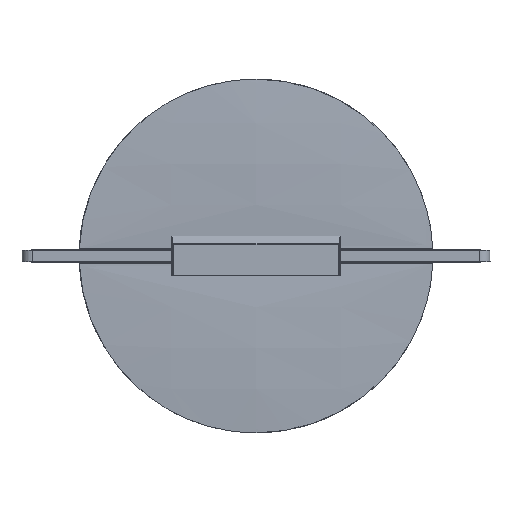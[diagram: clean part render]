
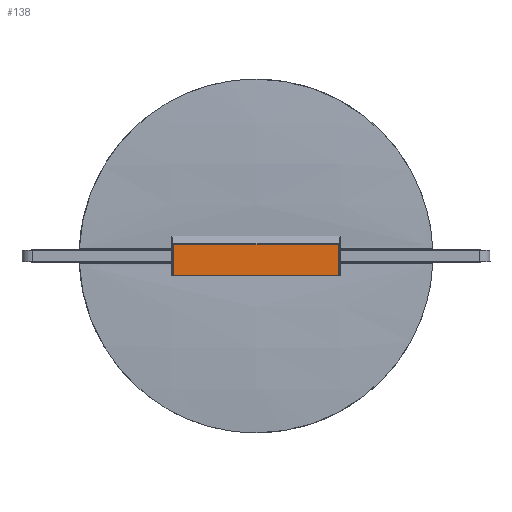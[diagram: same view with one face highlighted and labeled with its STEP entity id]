
A CAD part, front view. The second image highlights one B-rep face of the part: STEP entity #138.
In plain terms, the highlighted planar face has unit normal (0, -1, 0).
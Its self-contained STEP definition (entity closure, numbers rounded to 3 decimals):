
#138=ADVANCED_FACE('',(#618),#8238,.T.);
#618=FACE_OUTER_BOUND('',#1098,.T.);
#1098=EDGE_LOOP('',(#1767,#1768,#1769,#1770,#1771,#1772));
#1767=ORIENTED_EDGE('',*,*,#4356,.T.);
#1768=ORIENTED_EDGE('',*,*,#4365,.T.);
#1769=ORIENTED_EDGE('',*,*,#4416,.F.);
#1770=ORIENTED_EDGE('',*,*,#4374,.T.);
#1771=ORIENTED_EDGE('',*,*,#4418,.T.);
#1772=ORIENTED_EDGE('',*,*,#4336,.T.);
#4336=EDGE_CURVE('',#7072,#7119,#6197,.T.);
#4356=EDGE_CURVE('',#7119,#7101,#6216,.T.);
#4365=EDGE_CURVE('',#7101,#7132,#6225,.T.);
#4374=EDGE_CURVE('',#7134,#7136,#6233,.T.);
#4416=EDGE_CURVE('',#7134,#7132,#6271,.T.);
#4418=EDGE_CURVE('',#7136,#7072,#6273,.T.);
#6197=B_SPLINE_CURVE_WITH_KNOTS('',1,(#10202,#10203),.UNSPECIFIED.,.F.,
 .F.,(2,2),(-87.,0.),.UNSPECIFIED.);
#6216=B_SPLINE_CURVE_WITH_KNOTS('',1,(#10259,#10260),.UNSPECIFIED.,.F.,
 .F.,(2,2),(-0.963,0.),.UNSPECIFIED.);
#6225=B_SPLINE_CURVE_WITH_KNOTS('',1,(#10315,#10316),.UNSPECIFIED.,.F.,
 .F.,(2,2),(-372.074,0.),.UNSPECIFIED.);
#6233=B_SPLINE_CURVE_WITH_KNOTS('',1,(#10338,#10339),.UNSPECIFIED.,.F.,
 .F.,(2,2),(-87.,0.),.UNSPECIFIED.);
#6271=B_SPLINE_CURVE_WITH_KNOTS('',1,(#10477,#10478),.UNSPECIFIED.,.F.,
 .F.,(2,2),(0.,0.963),.UNSPECIFIED.);
#6273=B_SPLINE_CURVE_WITH_KNOTS('',1,(#10481,#10482),.UNSPECIFIED.,.F.,
 .F.,(2,2),(0.,374.),.UNSPECIFIED.);
#7072=VERTEX_POINT('',#9998);
#7101=VERTEX_POINT('',#10027);
#7119=VERTEX_POINT('',#10045);
#7132=VERTEX_POINT('',#10058);
#7134=VERTEX_POINT('',#10060);
#7136=VERTEX_POINT('',#10062);
#8238=PLANE('',#8763);
#8763=AXIS2_PLACEMENT_3D('',#9987,#9222,$);
#9222=DIRECTION('',(0.,-1.,0.));
#9987=CARTESIAN_POINT('',(-224.52,-25.2,-53.82));
#9998=CARTESIAN_POINT('',(187.,-25.2,-45.));
#10027=CARTESIAN_POINT('',(186.037,-25.2,42.));
#10045=CARTESIAN_POINT('',(187.,-25.2,42.));
#10058=CARTESIAN_POINT('',(-186.037,-25.2,42.));
#10060=CARTESIAN_POINT('',(-187.,-25.2,42.));
#10062=CARTESIAN_POINT('',(-187.,-25.2,-45.));
#10202=CARTESIAN_POINT('',(187.,-25.2,-45.));
#10203=CARTESIAN_POINT('',(187.,-25.2,42.));
#10259=CARTESIAN_POINT('',(187.,-25.2,42.));
#10260=CARTESIAN_POINT('',(186.037,-25.2,42.));
#10315=CARTESIAN_POINT('',(186.037,-25.2,42.));
#10316=CARTESIAN_POINT('',(-186.037,-25.2,42.));
#10338=CARTESIAN_POINT('',(-187.,-25.2,42.));
#10339=CARTESIAN_POINT('',(-187.,-25.2,-45.));
#10477=CARTESIAN_POINT('',(-187.,-25.2,42.));
#10478=CARTESIAN_POINT('',(-186.037,-25.2,42.));
#10481=CARTESIAN_POINT('',(-187.,-25.2,-45.));
#10482=CARTESIAN_POINT('',(187.,-25.2,-45.));
